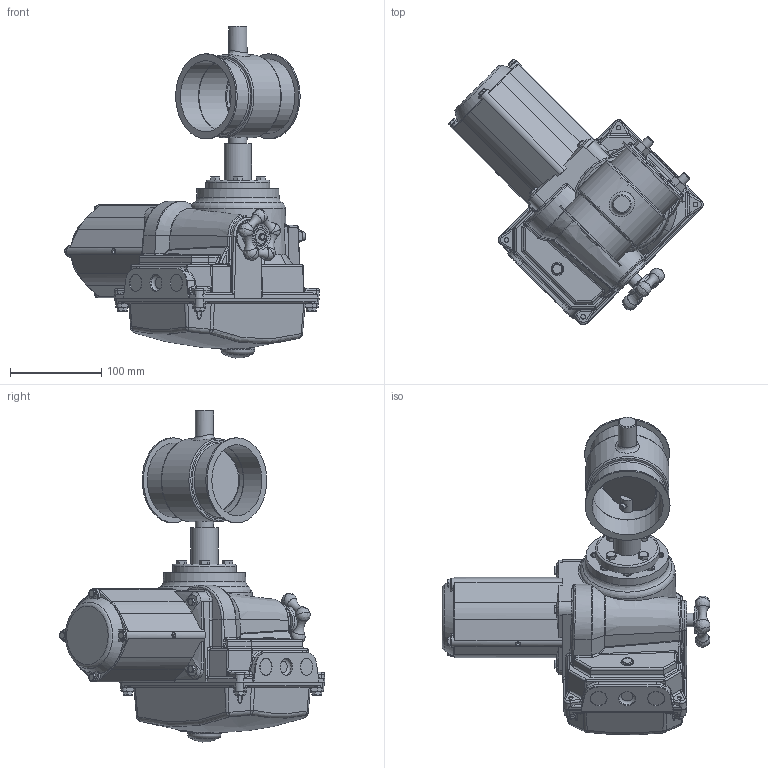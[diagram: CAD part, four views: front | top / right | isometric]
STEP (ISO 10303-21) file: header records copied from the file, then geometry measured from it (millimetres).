
FILE_DESCRIPTION((''),'2;1');
FILE_NAME('U:\Wolfgang\Marcel-3D\fertig\Kapitel 8\0821216.stp','2011-05-03T15:07:15',('TK1'),(''),'Autodesk Inventor 2010','Autodesk Inventor 2010','');
FILE_SCHEMA(('AUTOMOTIVE_DESIGN { 1 0 10303 214 1 1 1 1 }'));
Length unit declared in the file: millimetre
Products named in the file (8): 0821216; BuchseD15 70-50; Bolzen D15; Scheibe80b; DIN 6912 M6 x 16; DIN EN ISO 4018 M6x25; LEB45cc; 0811076
Assembly tree (12 placements, depth 2):
  0821216
    BuchseD15 70-50
    Bolzen D15  x2
    Scheibe80b
    DIN 6912 M6 x 16  x2
    DIN EN ISO 4018 M6x25  x4
    LEB45cc
    0811076
Bounding box: 279.38 x 290.96 x 363.82 mm (x, y, z)
Volume: 4204640.9 mm3; surface area: 357680.5 mm2
Topology: 12 solids, 12 shells, 1496 faces, 3756 edges, 2355 vertices
Faces by surface type: plane 752, cylinder 291, bspline 241, torus 86, cone 81, sphere 45
Full cylindrical faces by diameter (mm): 3 x2, 5 x4, 5.1 x8, 6 x14, 6.9 x8, 10 x6, 15 x7, 15.5 x1, 16 x1, 17 x1, 18.6 x2, 20 x2, 24 x1, 30 x1, 35 x1, 42 x1, 70 x1, 78 x3, 79 x1, 81 x2, 87 x1, 88 x1, 91 x1, 93 x2
Entity records: 51761 total; most frequent: CARTESIAN_POINT 19442, ORIENTED_EDGE 6644, DIRECTION 5836, EDGE_CURVE 3322, VERTEX_POINT 2193, AXIS2_PLACEMENT_3D 2058, VECTOR 1720, LINE 1720
